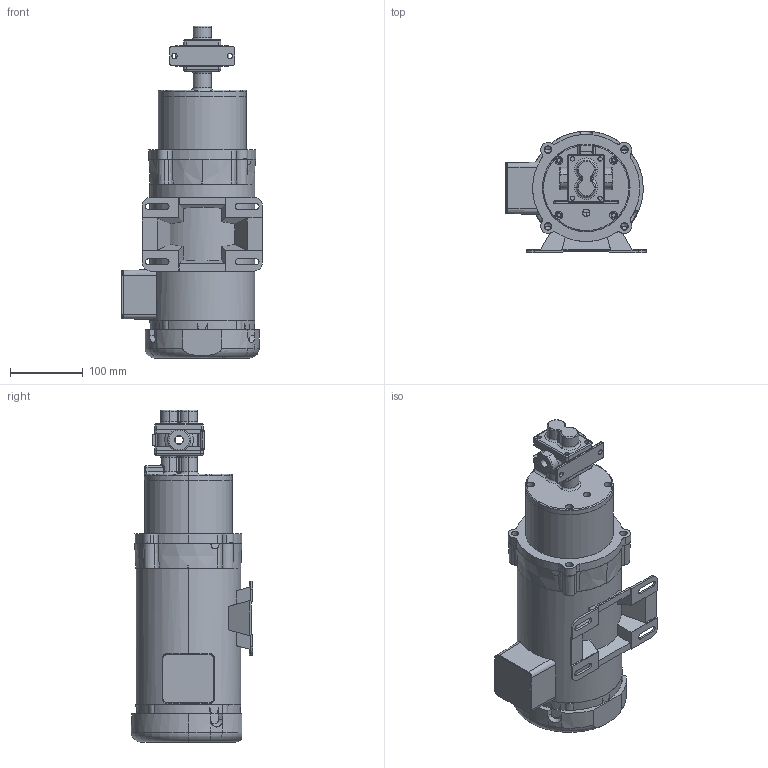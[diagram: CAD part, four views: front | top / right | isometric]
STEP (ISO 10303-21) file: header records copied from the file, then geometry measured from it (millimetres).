
FILE_DESCRIPTION (( 'STEP AP214' ), '1' );
FILE_NAME ('GMC2 FNPT 56C MOTOR.STEP', '2025-08-28T14:25:05', ( '' ), ( '' ), 'SwSTEP 2.0', 'SolidWorks 2024', '' );
FILE_SCHEMA (( 'AUTOMOTIVE_DESIGN' ));
Length unit declared in the file: inch
Products named in the file (1): GMC2 FNPT 56C MOTOR
Bounding box: 193.29 x 167.51 x 457.3 mm (x, y, z)
Volume: 5276170.9 mm3; surface area: 400190.9 mm2
Topology: 5 solids, 8 shells, 1637 faces, 4258 edges, 2756 vertices
Faces by surface type: cylinder 742, plane 680, cone 107, torus 72, bspline 22, sphere 14
Entity records: 54093 total; most frequent: CARTESIAN_POINT 12698, DIRECTION 9030, ORIENTED_EDGE 8472, EDGE_CURVE 4236, AXIS2_PLACEMENT_3D 3408, VERTEX_POINT 2756, VECTOR 2214, LINE 2214
